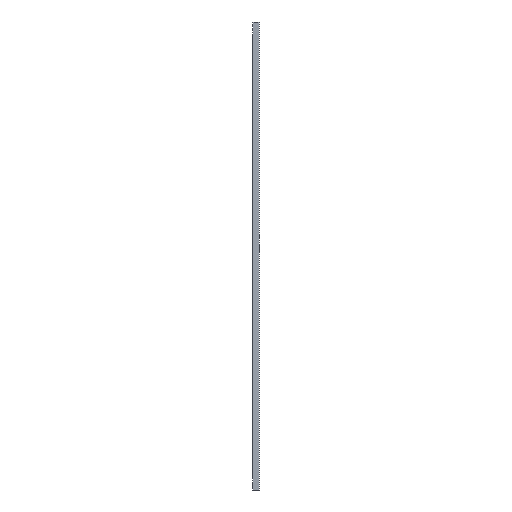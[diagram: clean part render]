
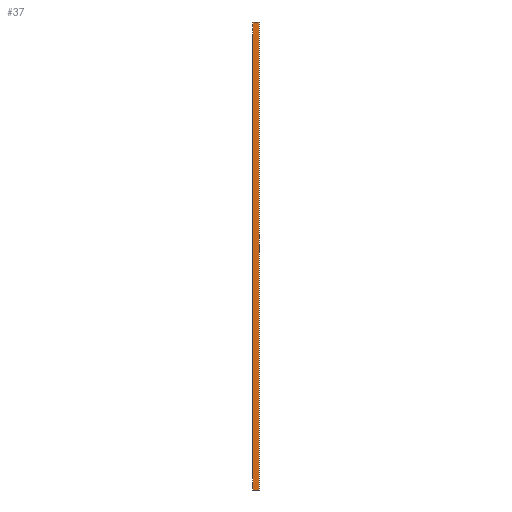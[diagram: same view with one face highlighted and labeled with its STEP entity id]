
A CAD part, left-side view. The second image highlights one B-rep face of the part: STEP entity #37.
In plain terms, the highlighted planar face has unit normal (-1, 0, 0).
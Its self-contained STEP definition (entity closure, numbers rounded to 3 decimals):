
#14 = VECTOR ( 'NONE', #685, 1000. ) ;
#25 = CARTESIAN_POINT ( 'NONE',  ( -8., 0., 879. ) ) ;
#37 = ADVANCED_FACE ( 'NONE', ( #774 ), #1120, .T. ) ;
#39 = DIRECTION ( 'NONE',  ( 0., 1., 0. ) ) ;
#52 = EDGE_CURVE ( 'NONE', #433, #521, #405, .T. ) ;
#53 = CARTESIAN_POINT ( 'NONE',  ( -8., 12.5, 879. ) ) ;
#62 = CARTESIAN_POINT ( 'NONE',  ( -8., 12.5, 879. ) ) ;
#87 = DIRECTION ( 'NONE',  ( 0., -1., 0. ) ) ;
#113 = CARTESIAN_POINT ( 'NONE',  ( -8., 0., 879. ) ) ;
#154 = ORIENTED_EDGE ( 'NONE', *, *, #342, .F. ) ;
#168 = DIRECTION ( 'NONE',  ( 0., 1., 0. ) ) ;
#215 = ORIENTED_EDGE ( 'NONE', *, *, #1186, .T. ) ;
#223 = VECTOR ( 'NONE', #87, 1000. ) ;
#257 = LINE ( 'NONE', #25, #962 ) ;
#342 = EDGE_CURVE ( 'NONE', #520, #640, #257, .T. ) ;
#378 = ORIENTED_EDGE ( 'NONE', *, *, #52, .T. ) ;
#386 = DIRECTION ( 'NONE',  ( 0., 1., 0. ) ) ;
#394 = VERTEX_POINT ( 'NONE', #650 ) ;
#397 = CARTESIAN_POINT ( 'NONE',  ( -8., 0., 879. ) ) ;
#405 = LINE ( 'NONE', #998, #991 ) ;
#406 = LINE ( 'NONE', #53, #751 ) ;
#433 = VERTEX_POINT ( 'NONE', #1161 ) ;
#444 = LINE ( 'NONE', #1184, #223 ) ;
#520 = VERTEX_POINT ( 'NONE', #662 ) ;
#521 = VERTEX_POINT ( 'NONE', #543 ) ;
#537 = VERTEX_POINT ( 'NONE', #1431 ) ;
#543 = CARTESIAN_POINT ( 'NONE',  ( -8., 9.3, 879. ) ) ;
#549 = ORIENTED_EDGE ( 'NONE', *, *, #1008, .F. ) ;
#560 = VECTOR ( 'NONE', #386, 1000. ) ;
#618 = CARTESIAN_POINT ( 'NONE',  ( -8., 9.3, 0. ) ) ;
#640 = VERTEX_POINT ( 'NONE', #705 ) ;
#650 = CARTESIAN_POINT ( 'NONE',  ( -8., 12.5, 0. ) ) ;
#651 = EDGE_LOOP ( 'NONE', ( #1432, #728, #154, #1353, #378, #736, #215, #549 ) ) ;
#655 = DIRECTION ( 'NONE',  ( 0., 0., -1. ) ) ;
#658 = CARTESIAN_POINT ( 'NONE',  ( -8., 12.5, 879. ) ) ;
#662 = CARTESIAN_POINT ( 'NONE',  ( -8., 0., 879. ) ) ;
#685 = DIRECTION ( 'NONE',  ( 0., 1., 0. ) ) ;
#698 = AXIS2_PLACEMENT_3D ( 'NONE', #397, #1134, #902 ) ;
#705 = CARTESIAN_POINT ( 'NONE',  ( -8., 0., 0. ) ) ;
#728 = ORIENTED_EDGE ( 'NONE', *, *, #1429, .T. ) ;
#736 = ORIENTED_EDGE ( 'NONE', *, *, #1305, .T. ) ;
#751 = VECTOR ( 'NONE', #39, 1000. ) ;
#756 = EDGE_CURVE ( 'NONE', #537, #766, #851, .T. ) ;
#766 = VERTEX_POINT ( 'NONE', #618 ) ;
#768 = LINE ( 'NONE', #62, #1362 ) ;
#774 = FACE_OUTER_BOUND ( 'NONE', #651, .T. ) ;
#851 = LINE ( 'NONE', #988, #560 ) ;
#879 = VERTEX_POINT ( 'NONE', #658 ) ;
#902 = DIRECTION ( 'NONE',  ( 0., 0., 1. ) ) ;
#962 = VECTOR ( 'NONE', #1223, 1000. ) ;
#988 = CARTESIAN_POINT ( 'NONE',  ( -8., 0., 0. ) ) ;
#991 = VECTOR ( 'NONE', #168, 1000. ) ;
#998 = CARTESIAN_POINT ( 'NONE',  ( -8., 0., 879. ) ) ;
#1008 = EDGE_CURVE ( 'NONE', #766, #394, #1281, .T. ) ;
#1068 = DIRECTION ( 'NONE',  ( 0., -1., 0. ) ) ;
#1120 = PLANE ( 'NONE',  #698 ) ;
#1134 = DIRECTION ( 'NONE',  ( -1., 0., 0. ) ) ;
#1161 = CARTESIAN_POINT ( 'NONE',  ( -8., 3.2, 879. ) ) ;
#1184 = CARTESIAN_POINT ( 'NONE',  ( -8., 0., 0. ) ) ;
#1186 = EDGE_CURVE ( 'NONE', #879, #394, #768, .T. ) ;
#1223 = DIRECTION ( 'NONE',  ( 0., 0., -1. ) ) ;
#1280 = VECTOR ( 'NONE', #1068, 1000. ) ;
#1281 = LINE ( 'NONE', #1291, #14 ) ;
#1291 = CARTESIAN_POINT ( 'NONE',  ( -8., 0., 0. ) ) ;
#1305 = EDGE_CURVE ( 'NONE', #521, #879, #406, .T. ) ;
#1353 = ORIENTED_EDGE ( 'NONE', *, *, #1378, .F. ) ;
#1362 = VECTOR ( 'NONE', #655, 1000. ) ;
#1378 = EDGE_CURVE ( 'NONE', #433, #520, #1421, .T. ) ;
#1421 = LINE ( 'NONE', #113, #1280 ) ;
#1429 = EDGE_CURVE ( 'NONE', #537, #640, #444, .T. ) ;
#1431 = CARTESIAN_POINT ( 'NONE',  ( -8., 3.2, 0. ) ) ;
#1432 = ORIENTED_EDGE ( 'NONE', *, *, #756, .F. ) ;
